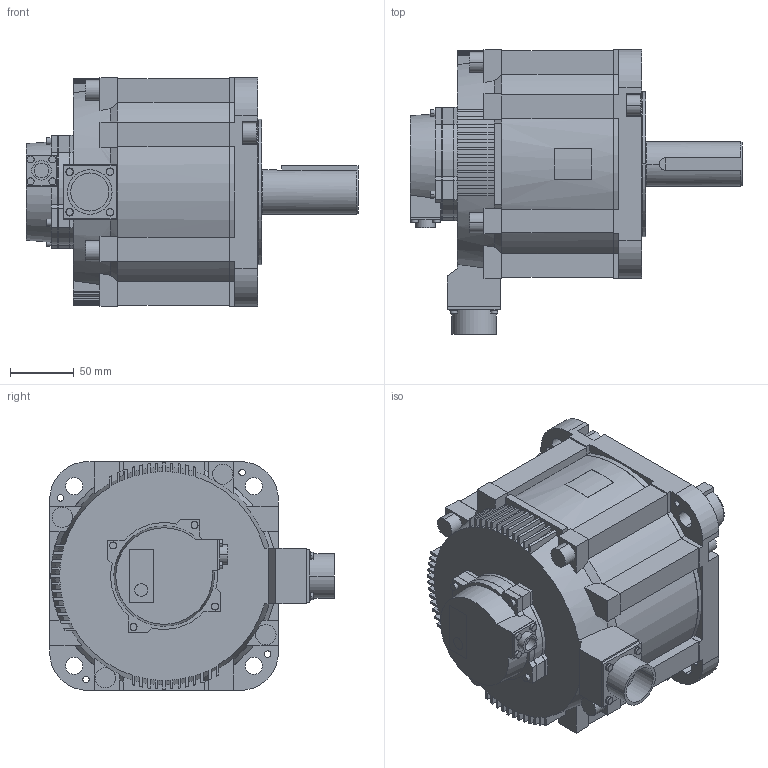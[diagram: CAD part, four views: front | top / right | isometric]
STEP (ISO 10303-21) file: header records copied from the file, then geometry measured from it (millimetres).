
FILE_DESCRIPTION( (''), '2;1');
FILE_NAME ('SGMXG-44AUA61C2.stp','2022-03-02T11:34:26',(''),(''),'spGate 15.6.6','','');
FILE_SCHEMA (('AUTOMOTIVE_DESIGN'));
Length unit declared in the file: millimetre
Products named in the file (3): Assembly; SGMXG-44AUA61C2-prt0; SGMXG-44AUA61C2-prt1
Assembly tree (2 placements, depth 2):
  Assembly
    SGMXG-44AUA61C2-prt0
    SGMXG-44AUA61C2-prt1
Bounding box: 261.2 x 224 x 180 mm (x, y, z)
Volume: 4184056.1 mm3; surface area: 230055.3 mm2
Topology: 2 solids, 2 shells, 593 faces, 1615 edges, 1068 vertices
Faces by surface type: plane 346, cylinder 182, bspline 65
Entity records: 31841 total; most frequent: CARTESIAN_POINT 4222, ORIENTED_EDGE 3230, DIRECTION 3038, COLOUR_RGB 2210, PRESENTATION_STYLE_ASSIGNMENT 2210, STYLED_ITEM 2210, EDGE_CURVE 1615, DRAUGHTING_PRE_DEFINED_CURVE_FONT 1615
